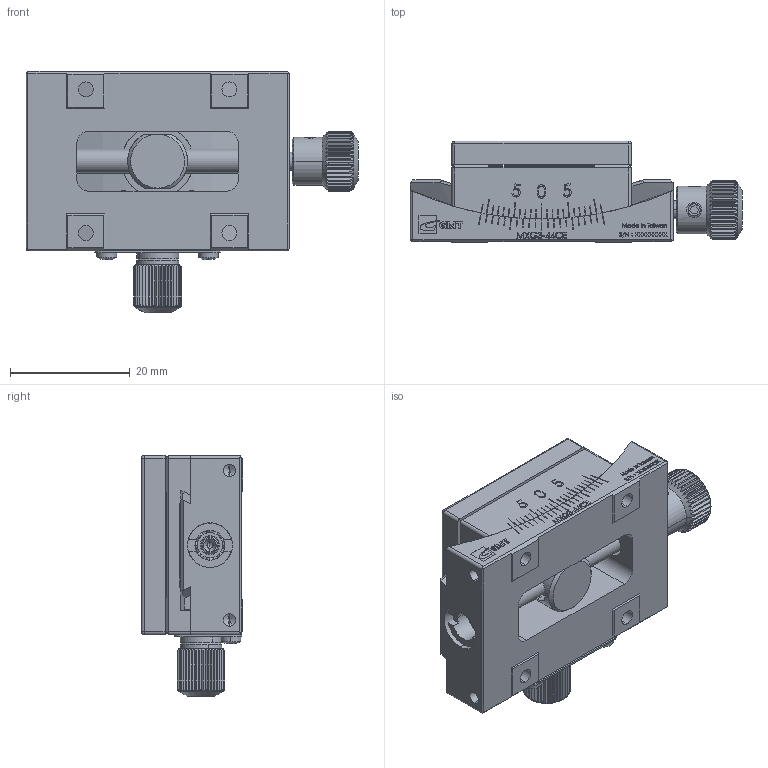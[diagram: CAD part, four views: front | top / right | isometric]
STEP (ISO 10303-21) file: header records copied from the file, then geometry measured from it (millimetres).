
FILE_DESCRIPTION (( 'STEP AP203' ), '1' );
FILE_NAME ('MXG3-44CE.STEP', '2011-09-07T08:58:52', ( 'user' ), ( '' ), 'SwSTEP 2.0', 'SolidWorks 2011', '' );
FILE_SCHEMA (( 'CONFIG_CONTROL_DESIGN' ));
Length unit declared in the file: millimetre
Products named in the file (22): MXG3-44CE; MXG3-44CE-A; SJ02B004_SCM435(化鎳); MXG3-30CE-09; MXG3-30CE-10_3-44; MXL40-A-08; W1C3.3A; SS2.5B004_SCM435(染黑); SM02B003_SCM435(化鎳); SS2.5D003_SCM435(化鎳); T683_683(無蓋); MXG3-30CE-08; MXG3-30CE-07; MXG3-30CE-11; MXG3-30CE-06; MXG3-44CE-05; MXG3-44CE-04; MXG3-44CE-03; MXG3-44CE-02; MXG3-44CE-01; SC02B006_SUS304; MXG3-30CE-12
Assembly tree (34 placements, depth 3):
  MXG3-44CE
    MXG3-30CE-12
    MXG3-44CE-A
      SJ02B004_SCM435(化鎳)  x4
      MXL40-A-08
      MXG3-30CE-09
      W1C3.3A
      SS2.5B004_SCM435(染黑)  x4
      SM02B003_SCM435(化鎳)  x2
      SS2.5D003_SCM435(化鎳)  x2
      T683_683(無蓋)  x2
      MXG3-30CE-08
      MXG3-30CE-07
      MXG3-44CE-01
      MXG3-30CE-10_3-44
      MXG3-30CE-11
      MXG3-30CE-06  x2
      MXG3-44CE-05
      MXG3-44CE-04
      MXG3-44CE-03
      MXG3-44CE-02
    SC02B006_SUS304  x4
Bounding box: 55.5 x 17 x 40.3 mm (x, y, z)
Volume: 17165.8 mm3; surface area: 16587.5 mm2
Topology: 33 solids, 33 shells, 2104 faces, 5608 edges, 3544 vertices
Faces by surface type: plane 1107, cylinder 422, cone 246, bspline 155, torus 134, sphere 40
Entity records: 65285 total; most frequent: CARTESIAN_POINT 20991, ORIENTED_EDGE 9100, DIRECTION 7962, EDGE_CURVE 4550, VERTEX_POINT 2931, AXIS2_PLACEMENT_3D 2688, VECTOR 2586, LINE 2586
